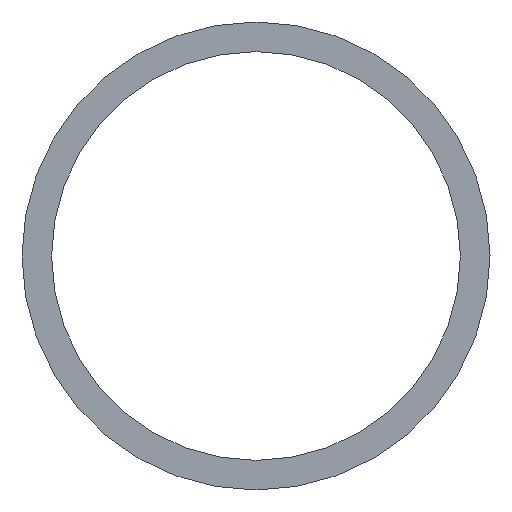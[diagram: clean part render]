
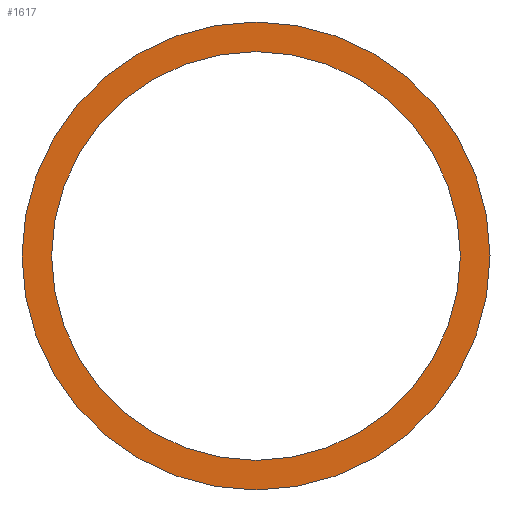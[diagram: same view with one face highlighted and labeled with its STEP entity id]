
A CAD part, left-side view. The second image highlights one B-rep face of the part: STEP entity #1617.
In plain terms, the highlighted planar face has unit normal (-1, 0, 0).
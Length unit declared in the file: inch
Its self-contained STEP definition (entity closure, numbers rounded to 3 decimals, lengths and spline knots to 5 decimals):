
#873=FACE_BOUND('',#884,.T.);
#875=PLANE('',#1639);
#879=FACE_OUTER_BOUND('',#883,.T.);
#883=EDGE_LOOP('',(#1609));
#884=EDGE_LOOP('',(#1610));
#1587=CIRCLE('',#1634,0.655);
#1590=CIRCLE('',#1638,0.75);
#1591=VERTEX_POINT('',#2011);
#1594=VERTEX_POINT('',#2019);
#1595=EDGE_CURVE('',#1591,#1591,#1587,.T.);
#1600=EDGE_CURVE('',#1594,#1594,#1590,.T.);
#1609=ORIENTED_EDGE('',*,*,#1600,.T.);
#1610=ORIENTED_EDGE('',*,*,#1595,.T.);
#1617=ADVANCED_FACE('',(#879,#873),#875,.T.);
#1634=AXIS2_PLACEMENT_3D('',#2012,#1645,#1646);
#1638=AXIS2_PLACEMENT_3D('',#2021,#1655,#1656);
#1639=AXIS2_PLACEMENT_3D('',#2022,#1657,#1658);
#1645=DIRECTION('center_axis',(1.,0.,0.));
#1646=DIRECTION('ref_axis',(0.,0.,-1.));
#1655=DIRECTION('center_axis',(-1.,0.,0.));
#1656=DIRECTION('ref_axis',(0.,0.,-1.));
#1657=DIRECTION('center_axis',(-1.,0.,0.));
#1658=DIRECTION('ref_axis',(0.,0.,1.));
#2011=CARTESIAN_POINT('',(0.,0.,0.655));
#2012=CARTESIAN_POINT('Origin',(0.,0.,0.));
#2019=CARTESIAN_POINT('',(0.,0.,0.75));
#2021=CARTESIAN_POINT('Origin',(0.,0.,0.));
#2022=CARTESIAN_POINT('Origin',(0.,0.,0.));
